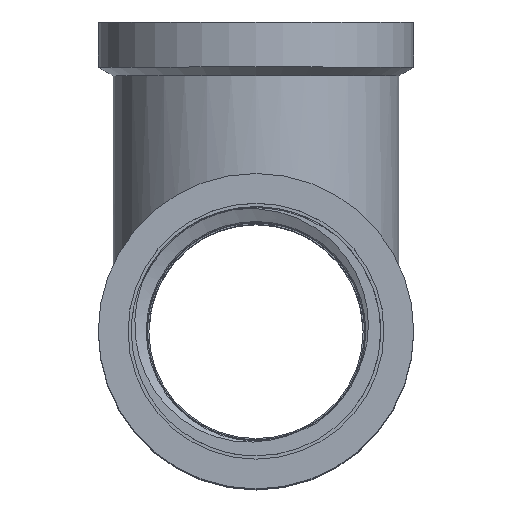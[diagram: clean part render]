
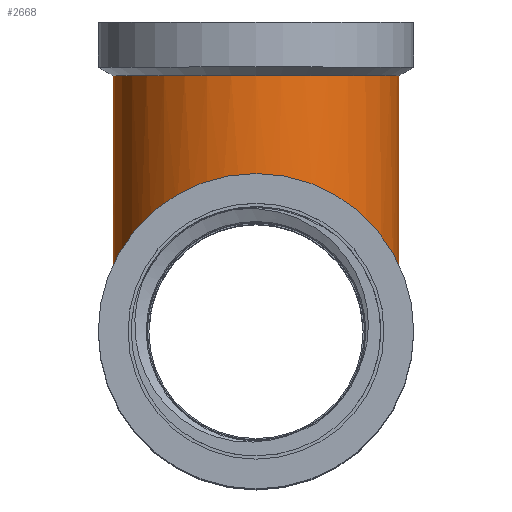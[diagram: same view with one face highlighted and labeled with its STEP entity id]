
A CAD part, top view. The second image highlights one B-rep face of the part: STEP entity #2668.
In plain terms, the highlighted cylindrical face has radius 12 mm (diameter 24 mm), a full revolution.
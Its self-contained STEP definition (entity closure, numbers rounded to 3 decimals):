
#224=CIRCLE('',#2834,12.);
#244=CIRCLE('',#2881,12.);
#245=CIRCLE('',#2882,12.);
#435=FACE_OUTER_BOUND('',#594,.T.);
#594=EDGE_LOOP('',(#2150,#2151,#2152,#2153,#2154,#2155,#2156,#2157,#2158));
#688=ELLIPSE('',#2849,16.971,12.);
#689=ELLIPSE('',#2850,16.971,12.);
#690=ELLIPSE('',#2853,16.971,12.);
#691=ELLIPSE('',#2854,16.971,12.);
#828=LINE('',#4574,#998);
#998=VECTOR('',#3361,12.);
#1151=VERTEX_POINT('',#4425);
#1153=VERTEX_POINT('',#4429);
#1164=VERTEX_POINT('',#4507);
#1165=VERTEX_POINT('',#4509);
#1166=VERTEX_POINT('',#4511);
#1187=VERTEX_POINT('',#4568);
#1188=VERTEX_POINT('',#4569);
#1481=EDGE_CURVE('',#1151,#1153,#224,.T.);
#1504=EDGE_CURVE('',#1164,#1165,#688,.T.);
#1505=EDGE_CURVE('',#1165,#1166,#689,.T.);
#1509=EDGE_CURVE('',#1166,#1153,#690,.T.);
#1510=EDGE_CURVE('',#1151,#1164,#691,.T.);
#1533=EDGE_CURVE('',#1187,#1188,#244,.T.);
#1534=EDGE_CURVE('',#1188,#1187,#245,.T.);
#1536=EDGE_CURVE('',#1166,#1188,#828,.T.);
#2150=ORIENTED_EDGE('',*,*,#1481,.T.);
#2151=ORIENTED_EDGE('',*,*,#1509,.F.);
#2152=ORIENTED_EDGE('',*,*,#1536,.T.);
#2153=ORIENTED_EDGE('',*,*,#1534,.T.);
#2154=ORIENTED_EDGE('',*,*,#1533,.T.);
#2155=ORIENTED_EDGE('',*,*,#1536,.F.);
#2156=ORIENTED_EDGE('',*,*,#1505,.F.);
#2157=ORIENTED_EDGE('',*,*,#1504,.F.);
#2158=ORIENTED_EDGE('',*,*,#1510,.F.);
#2541=CYLINDRICAL_SURFACE('',#2883,12.);
#2668=ADVANCED_FACE('',(#435),#2541,.T.);
#2834=AXIS2_PLACEMENT_3D('',#4431,#3239,#3240);
#2849=AXIS2_PLACEMENT_3D('',#4510,#3285,#3286);
#2850=AXIS2_PLACEMENT_3D('',#4512,#3287,#3288);
#2853=AXIS2_PLACEMENT_3D('',#4518,#3294,#3295);
#2854=AXIS2_PLACEMENT_3D('',#4519,#3296,#3297);
#2881=AXIS2_PLACEMENT_3D('',#4570,#3354,#3355);
#2882=AXIS2_PLACEMENT_3D('',#4571,#3356,#3357);
#2883=AXIS2_PLACEMENT_3D('',#4573,#3359,#3360);
#3239=DIRECTION('center_axis',(0.,1.,0.));
#3240=DIRECTION('ref_axis',(0.,0.,1.));
#3285=DIRECTION('center_axis',(0.,-0.707,0.707));
#3286=DIRECTION('ref_axis',(0.,0.707,0.707));
#3287=DIRECTION('center_axis',(0.,-0.707,-0.707));
#3288=DIRECTION('ref_axis',(0.,-0.707,0.707));
#3294=DIRECTION('center_axis',(0.,-0.707,-0.707));
#3295=DIRECTION('ref_axis',(0.,-0.707,0.707));
#3296=DIRECTION('center_axis',(0.,-0.707,0.707));
#3297=DIRECTION('ref_axis',(0.,0.707,0.707));
#3354=DIRECTION('center_axis',(0.,-1.,0.));
#3355=DIRECTION('ref_axis',(1.,0.,0.));
#3356=DIRECTION('center_axis',(0.,-1.,0.));
#3357=DIRECTION('ref_axis',(1.,0.,0.));
#3359=DIRECTION('center_axis',(0.,-1.,0.));
#3360=DIRECTION('ref_axis',(0.,0.,1.));
#3361=DIRECTION('',(0.,1.,0.));
#4425=CARTESIAN_POINT('',(11.532,3.319,29.547));
#4429=CARTESIAN_POINT('',(11.532,3.319,22.909));
#4431=CARTESIAN_POINT('Origin',(0.,3.319,26.228));
#4507=CARTESIAN_POINT('',(0.,12.,38.228));
#4509=CARTESIAN_POINT('',(-12.,0.,26.228));
#4510=CARTESIAN_POINT('Origin',(0.,0.,26.228));
#4511=CARTESIAN_POINT('',(0.,12.,14.228));
#4512=CARTESIAN_POINT('Origin',(0.,0.,26.228));
#4518=CARTESIAN_POINT('Origin',(0.,0.,26.228));
#4519=CARTESIAN_POINT('Origin',(0.,0.,26.228));
#4568=CARTESIAN_POINT('',(0.,21.5,38.228));
#4569=CARTESIAN_POINT('',(0.,21.5,14.228));
#4570=CARTESIAN_POINT('Origin',(0.,21.5,26.228));
#4571=CARTESIAN_POINT('Origin',(0.,21.5,26.228));
#4573=CARTESIAN_POINT('Origin',(0.,10.75,26.228));
#4574=CARTESIAN_POINT('',(0.,10.75,14.228));
